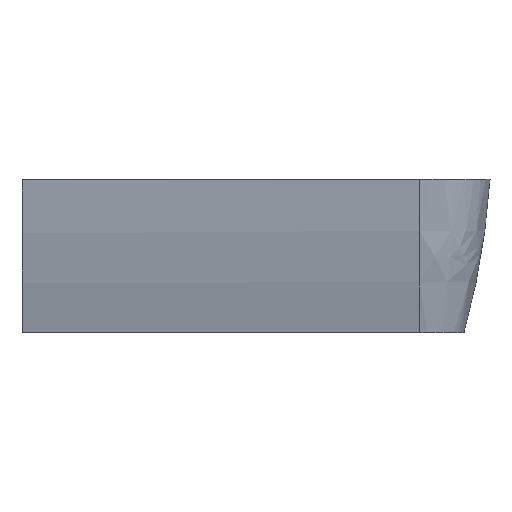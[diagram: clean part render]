
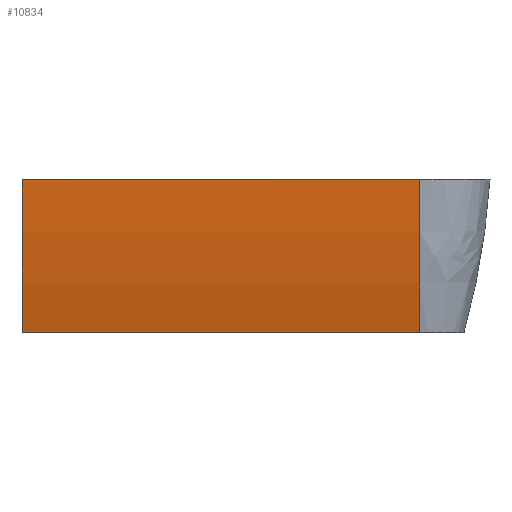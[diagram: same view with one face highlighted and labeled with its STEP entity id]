
A CAD part, top view. The second image highlights one B-rep face of the part: STEP entity #10834.
In plain terms, the highlighted cylindrical face has radius 3000 mm (diameter 6000 mm), a partial arc.
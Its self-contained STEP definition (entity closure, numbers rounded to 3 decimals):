
#1138=CARTESIAN_POINT('',(-900.,2193.068,793.825));
#1139=DIRECTION('',(-1.,0.,0.));
#1140=DIRECTION('',(0.,-0.964,-0.265));
#1141=AXIS2_PLACEMENT_3D('',#1138,#1139,#1140);
#1143=CARTESIAN_POINT('',(-900.,2193.068,793.825));
#1144=DIRECTION('',(-1.,0.,0.));
#1145=DIRECTION('',(0.,-0.997,-0.073));
#1146=AXIS2_PLACEMENT_3D('',#1143,#1144,#1145);
#1148=DIRECTION('',(1.,0.,0.));
#1149=VECTOR('',#1148,1530.);
#1150=CARTESIAN_POINT('',(-900.,-700.,0.));
#1151=LINE('',#1150,#1149);
#1152=DIRECTION('',(-1.,0.,0.));
#1153=VECTOR('',#1152,1530.);
#1154=CARTESIAN_POINT('',(630.,-800.,590.));
#1155=LINE('',#1154,#1153);
#1156=CARTESIAN_POINT('',(630.,2193.068,793.825));
#1157=DIRECTION('',(1.,0.,0.));
#1158=DIRECTION('',(0.,-0.998,-0.068));
#1159=AXIS2_PLACEMENT_3D('',#1156,#1157,#1158);
#8668=CARTESIAN_POINT('',(630.,-700.,0.));
#8669=VERTEX_POINT('',#8668);
#8670=CARTESIAN_POINT('',(-900.,-700.,0.));
#8671=VERTEX_POINT('',#8670);
#8676=CARTESIAN_POINT('',(-900.,-798.941,575.));
#8677=VERTEX_POINT('',#8676);
#8678=CARTESIAN_POINT('',(-900.,-800.,590.));
#8679=VERTEX_POINT('',#8678);
#8684=CARTESIAN_POINT('',(630.,-800.,590.));
#8685=VERTEX_POINT('',#8684);
#10820=CARTESIAN_POINT('',(-135.,2193.068,
793.825));
#10821=DIRECTION('',(-1.,0.,0.));
#10822=DIRECTION('',(0.,-0.964,
-0.265));
#10823=AXIS2_PLACEMENT_3D('',#10820,#10821,#10822);
#10824=CYLINDRICAL_SURFACE('',#10823,3000.);
#10825=ORIENTED_EDGE('',*,*,#10763,.T.);
#10827=ORIENTED_EDGE('',*,*,#10826,.F.);
#10829=ORIENTED_EDGE('',*,*,#10828,.T.);
#10830=ORIENTED_EDGE('',*,*,#10809,.F.);
#10831=ORIENTED_EDGE('',*,*,#10798,.F.);
#10832=EDGE_LOOP('',(#10825,#10827,#10829,#10830,#10831));
#10833=FACE_OUTER_BOUND('',#10832,.F.);
#10834=ADVANCED_FACE('',(#10833),#10824,.F.);
#1142=CIRCLE('',#1141,3000.);
#1147=CIRCLE('',#1146,3000.);
#1160=CIRCLE('',#1159,3000.);
#10763=EDGE_CURVE('',#8671,#8669,#1151,.T.);
#10798=EDGE_CURVE('',#8671,#8677,#1142,.T.);
#10809=EDGE_CURVE('',#8677,#8679,#1147,.T.);
#10826=EDGE_CURVE('',#8685,#8669,#1160,.T.);
#10828=EDGE_CURVE('',#8685,#8679,#1155,.T.);
